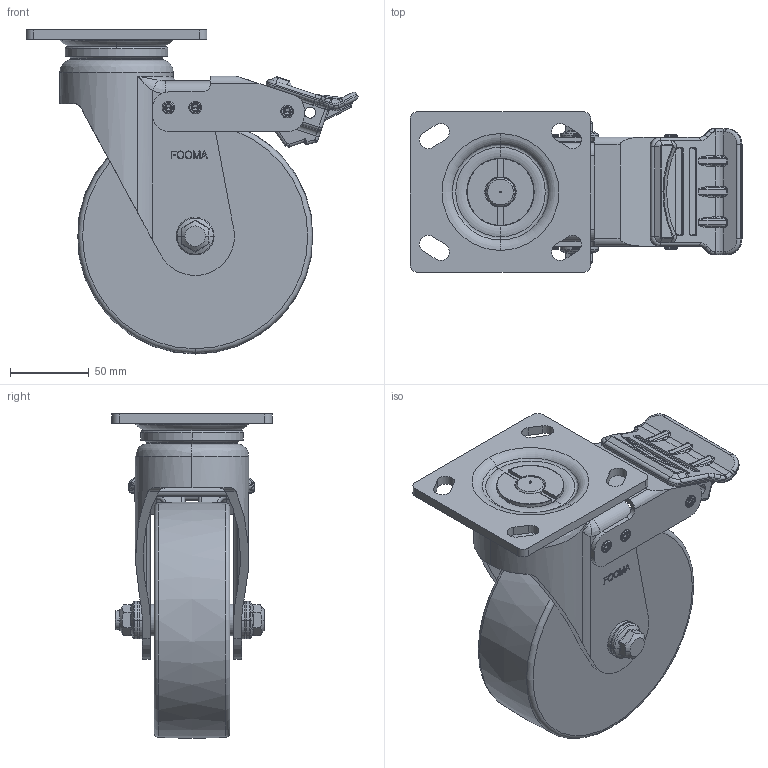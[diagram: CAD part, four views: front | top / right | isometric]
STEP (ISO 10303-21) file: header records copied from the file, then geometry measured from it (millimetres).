
FILE_DESCRIPTION((''),'2;1');
FILE_NAME('GH-150-BSF-W48.stp','2013-12-12T10:14:37',(''),(''),'Mechanical Desktop 2009','Mechanical Desktop 2009',', , ');
FILE_SCHEMA(('CONFIG_CONTROL_DESIGN'));
Length unit declared in the file: millimetre
Products named in the file (2): GH-150-BSF-W48; PLATE
Assembly tree (1 placements, depth 2):
  GH-150-BSF-W48
    PLATE
Bounding box: 210.95 x 102 x 205.95 mm (x, y, z)
Volume: 1174718.2 mm3; surface area: 189681.4 mm2
Topology: 9 solids, 9 shells, 1119 faces, 2833 edges, 1740 vertices
Faces by surface type: bspline 359, cylinder 352, plane 253, torus 100, cone 43, sphere 12
Entity records: 43565 total; most frequent: CARTESIAN_POINT 17757, ORIENTED_EDGE 5590, DIRECTION 5122, EDGE_CURVE 2795, AXIS2_PLACEMENT_3D 2036, VERTEX_POINT 1740, EDGE_LOOP 1211, FACE_OUTER_BOUND 1119
